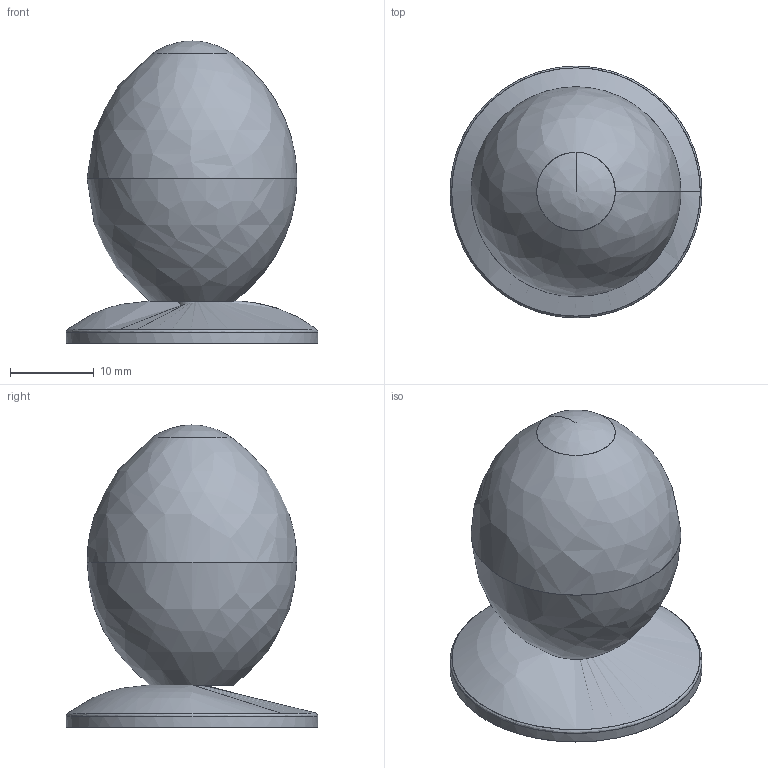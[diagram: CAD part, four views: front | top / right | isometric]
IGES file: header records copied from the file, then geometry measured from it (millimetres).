
Start section: C
Global section: file name: 8015-36.igs; native system: By Siemens PLM Incorporated; preprocessor: XPlus GENERIC/IGES 16.0.42; author: Author; organization: Title; date: 20231128.142506; units: millimetre
Bounding box: 30 x 30 x 36 mm (x, y, z)
Surface area: 7271.7 mm2 (no closed solid volume)
Topology: 0 solids, 0 shells, 46 faces, 250 edges, 244 vertices
Faces by surface type: bspline 46
